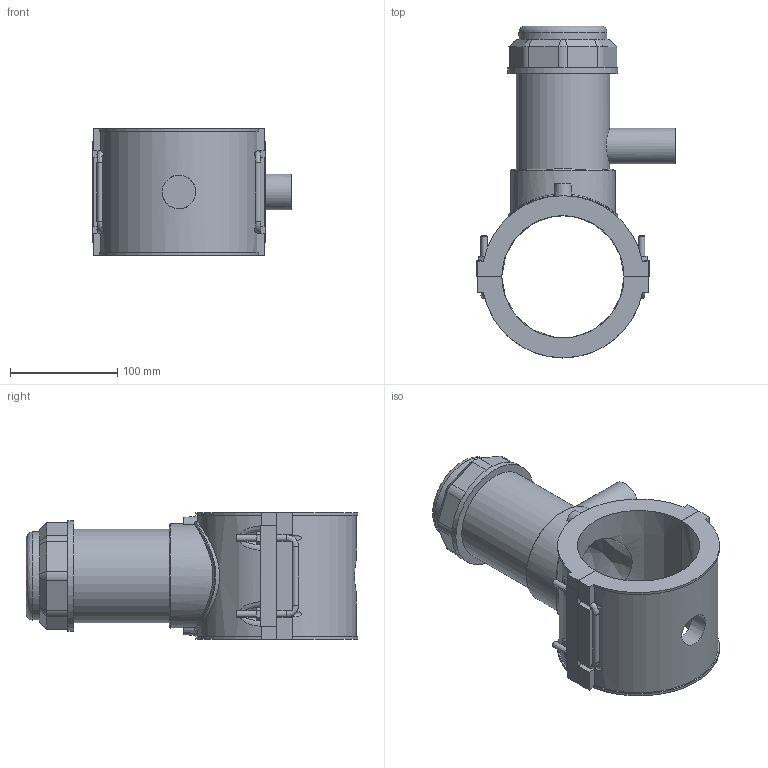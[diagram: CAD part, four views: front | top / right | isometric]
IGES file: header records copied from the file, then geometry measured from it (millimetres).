
Global section: file name: 5963BB03040010.ipt; native system: Autodesk Inventor 2019; preprocessor: unknown; author: KIM; date: 20210830.101359; units: millimetre
Bounding box: 185.4 x 309.74 x 118.11 mm (x, y, z)
Volume: 1397490 mm3; surface area: 227161.3 mm2
Topology: 1 solids, 3 shells, 215 faces, 569 edges, 370 vertices
Faces by surface type: plane 126, cylinder 40, revolution 28, cone 15, bspline 6
Full cylindrical faces by diameter (mm): 6 x8, 33.3 x1, 82.152 x1, 87.287 x1, 97.555 x1, 102.69 x1
